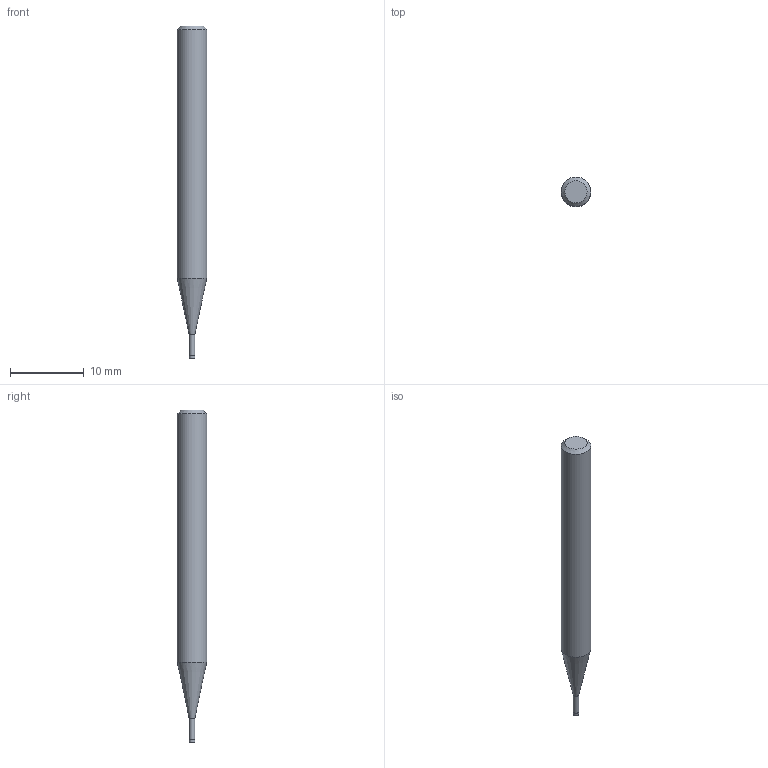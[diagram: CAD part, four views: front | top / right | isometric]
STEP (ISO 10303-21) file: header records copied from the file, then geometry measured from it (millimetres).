
FILE_DESCRIPTION((''),'2;1');
FILE_NAME('C:\Users\nsx150\AppData\Local\Temp\Mastercam 2021\CC00YWH0Y5\TEMP.step','2021-04-08T15:19:41',(''),(''),'STEP Write','Mastercam 2021 ... CNC Software, Inc.','');
FILE_SCHEMA(('AUTOMOTIVE_DESIGN'));
Length unit declared in the file: millimetre
Products named in the file (1): None
Bounding box: 4 x 4 x 45 mm (x, y, z)
Volume: 468.7 mm3; surface area: 505.5 mm2
Topology: 2 solids, 2 shells, 9 faces, 12 edges, 7 vertices
Faces by surface type: plane 4, cylinder 3, cone 2
Full cylindrical faces by diameter (mm): 0.76 x1, 0.8 x1, 4 x1
Entity records: 211 total; most frequent: DIRECTION 36, CARTESIAN_POINT 25, AXIS2_PLACEMENT_3D 18, ORIENTED_EDGE 14, EDGE_LOOP 14, STYLED_ITEM 12, ADVANCED_FACE 9, FACE_BOUND 8
